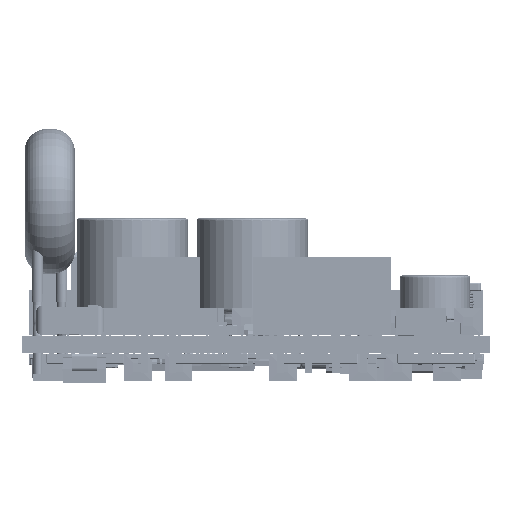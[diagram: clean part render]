
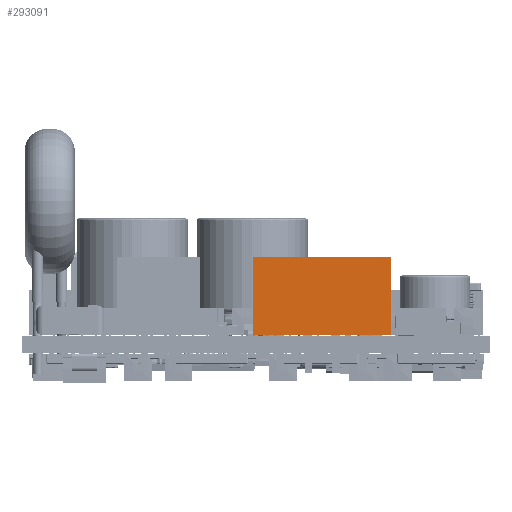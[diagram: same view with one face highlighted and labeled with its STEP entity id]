
A CAD part, left-side view. The second image highlights one B-rep face of the part: STEP entity #293091.
In plain terms, the highlighted planar face has unit normal (-1, 0, 0) as drawn and (0, 0, -1) by its records, which use the part's own axes.
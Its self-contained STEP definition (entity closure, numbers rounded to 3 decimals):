
#291357 = PLANE('',#291358);
#291358 = AXIS2_PLACEMENT_3D('',#291359,#291360,#291361);
#291359 = CARTESIAN_POINT('',(6.2,7.,2.875));
#291360 = DIRECTION('',(-1.,0.,0.));
#291361 = DIRECTION('',(0.,0.,1.));
#291494 = VERTEX_POINT('',#291495);
#291495 = CARTESIAN_POINT('',(6.2,7.,-2.875));
#291509 = PLANE('',#291510);
#291510 = AXIS2_PLACEMENT_3D('',#291511,#291512,#291513);
#291511 = CARTESIAN_POINT('',(6.2,7.,1.05));
#291512 = DIRECTION('',(0.,-1.,0.));
#291513 = DIRECTION('',(0.,0.,-1.));
#291521 = EDGE_CURVE('',#291494,#291522,#291524,.T.);
#291522 = VERTEX_POINT('',#291523);
#291523 = CARTESIAN_POINT('',(6.2,0.,-2.875));
#291524 = SURFACE_CURVE('',#291525,(#291529,#291536),.PCURVE_S1.);
#291525 = LINE('',#291526,#291527);
#291526 = CARTESIAN_POINT('',(6.2,7.,-2.875));
#291527 = VECTOR('',#291528,1.);
#291528 = DIRECTION('',(0.,-1.,0.));
#291529 = PCURVE('',#291357,#291530);
#291530 = DEFINITIONAL_REPRESENTATION('',(#291531),#291535);
#291531 = LINE('',#291532,#291533);
#291532 = CARTESIAN_POINT('',(-5.75,0.));
#291533 = VECTOR('',#291534,1.);
#291534 = DIRECTION('',(0.,-1.));
#291535 = ( GEOMETRIC_REPRESENTATION_CONTEXT(2) 
PARAMETRIC_REPRESENTATION_CONTEXT() REPRESENTATION_CONTEXT('2D SPACE',''
  ) );
#291536 = PCURVE('',#291537,#291542);
#291537 = PLANE('',#291538);
#291538 = AXIS2_PLACEMENT_3D('',#291539,#291540,#291541);
#291539 = CARTESIAN_POINT('',(6.2,0.,-2.875));
#291540 = DIRECTION('',(0.,0.,1.));
#291541 = DIRECTION('',(1.,0.,0.));
#291542 = DEFINITIONAL_REPRESENTATION('',(#291543),#291547);
#291543 = LINE('',#291544,#291545);
#291544 = CARTESIAN_POINT('',(0.,7.));
#291545 = VECTOR('',#291546,1.);
#291546 = DIRECTION('',(0.,-1.));
#291547 = ( GEOMETRIC_REPRESENTATION_CONTEXT(2) 
PARAMETRIC_REPRESENTATION_CONTEXT() REPRESENTATION_CONTEXT('2D SPACE',''
  ) );
#291563 = PLANE('',#291564);
#291564 = AXIS2_PLACEMENT_3D('',#291565,#291566,#291567);
#291565 = CARTESIAN_POINT('',(6.2,0.,2.875));
#291566 = DIRECTION('',(0.,1.,0.));
#291567 = DIRECTION('',(0.,0.,1.));
#291641 = PLANE('',#291642);
#291642 = AXIS2_PLACEMENT_3D('',#291643,#291644,#291645);
#291643 = CARTESIAN_POINT('',(-6.2,7.,2.875));
#291644 = DIRECTION('',(-1.,0.,0.));
#291645 = DIRECTION('',(0.,0.,1.));
#292490 = VERTEX_POINT('',#292491);
#292491 = CARTESIAN_POINT('',(-6.2,0.,-2.875));
#292512 = EDGE_CURVE('',#292513,#292490,#292515,.T.);
#292513 = VERTEX_POINT('',#292514);
#292514 = CARTESIAN_POINT('',(-6.2,7.,-2.875));
#292515 = SURFACE_CURVE('',#292516,(#292520,#292527),.PCURVE_S1.);
#292516 = LINE('',#292517,#292518);
#292517 = CARTESIAN_POINT('',(-6.2,7.,-2.875));
#292518 = VECTOR('',#292519,1.);
#292519 = DIRECTION('',(0.,-1.,0.));
#292520 = PCURVE('',#291641,#292521);
#292521 = DEFINITIONAL_REPRESENTATION('',(#292522),#292526);
#292522 = LINE('',#292523,#292524);
#292523 = CARTESIAN_POINT('',(-5.75,0.));
#292524 = VECTOR('',#292525,1.);
#292525 = DIRECTION('',(0.,-1.));
#292526 = ( GEOMETRIC_REPRESENTATION_CONTEXT(2) 
PARAMETRIC_REPRESENTATION_CONTEXT() REPRESENTATION_CONTEXT('2D SPACE',''
  ) );
#292527 = PCURVE('',#291537,#292528);
#292528 = DEFINITIONAL_REPRESENTATION('',(#292529),#292533);
#292529 = LINE('',#292530,#292531);
#292530 = CARTESIAN_POINT('',(-12.4,7.));
#292531 = VECTOR('',#292532,1.);
#292532 = DIRECTION('',(0.,-1.));
#292533 = ( GEOMETRIC_REPRESENTATION_CONTEXT(2) 
PARAMETRIC_REPRESENTATION_CONTEXT() REPRESENTATION_CONTEXT('2D SPACE',''
  ) );
#292615 = EDGE_CURVE('',#292490,#291522,#292616,.T.);
#292616 = SURFACE_CURVE('',#292617,(#292621,#292628),.PCURVE_S1.);
#292617 = LINE('',#292618,#292619);
#292618 = CARTESIAN_POINT('',(-6.2,0.,-2.875));
#292619 = VECTOR('',#292620,1.);
#292620 = DIRECTION('',(1.,0.,0.));
#292621 = PCURVE('',#291563,#292622);
#292622 = DEFINITIONAL_REPRESENTATION('',(#292623),#292627);
#292623 = LINE('',#292624,#292625);
#292624 = CARTESIAN_POINT('',(-5.75,-12.4));
#292625 = VECTOR('',#292626,1.);
#292626 = DIRECTION('',(0.,1.));
#292627 = ( GEOMETRIC_REPRESENTATION_CONTEXT(2) 
PARAMETRIC_REPRESENTATION_CONTEXT() REPRESENTATION_CONTEXT('2D SPACE',''
  ) );
#292628 = PCURVE('',#291537,#292629);
#292629 = DEFINITIONAL_REPRESENTATION('',(#292630),#292634);
#292630 = LINE('',#292631,#292632);
#292631 = CARTESIAN_POINT('',(-12.4,0.));
#292632 = VECTOR('',#292633,1.);
#292633 = DIRECTION('',(1.,0.));
#292634 = ( GEOMETRIC_REPRESENTATION_CONTEXT(2) 
PARAMETRIC_REPRESENTATION_CONTEXT() REPRESENTATION_CONTEXT('2D SPACE',''
  ) );
#293091 = ADVANCED_FACE('',(#293092),#291537,.F.);
#293092 = FACE_BOUND('',#293093,.F.);
#293093 = EDGE_LOOP('',(#293094,#293095,#293096,#293097));
#293094 = ORIENTED_EDGE('',*,*,#292512,.T.);
#293095 = ORIENTED_EDGE('',*,*,#292615,.T.);
#293096 = ORIENTED_EDGE('',*,*,#291521,.F.);
#293097 = ORIENTED_EDGE('',*,*,#293098,.F.);
#293098 = EDGE_CURVE('',#292513,#291494,#293099,.T.);
#293099 = SURFACE_CURVE('',#293100,(#293104,#293111),.PCURVE_S1.);
#293100 = LINE('',#293101,#293102);
#293101 = CARTESIAN_POINT('',(-6.2,7.,-2.875));
#293102 = VECTOR('',#293103,1.);
#293103 = DIRECTION('',(1.,0.,0.));
#293104 = PCURVE('',#291537,#293105);
#293105 = DEFINITIONAL_REPRESENTATION('',(#293106),#293110);
#293106 = LINE('',#293107,#293108);
#293107 = CARTESIAN_POINT('',(-12.4,7.));
#293108 = VECTOR('',#293109,1.);
#293109 = DIRECTION('',(1.,0.));
#293110 = ( GEOMETRIC_REPRESENTATION_CONTEXT(2) 
PARAMETRIC_REPRESENTATION_CONTEXT() REPRESENTATION_CONTEXT('2D SPACE',''
  ) );
#293111 = PCURVE('',#291509,#293112);
#293112 = DEFINITIONAL_REPRESENTATION('',(#293113),#293117);
#293113 = LINE('',#293114,#293115);
#293114 = CARTESIAN_POINT('',(3.925,-12.4));
#293115 = VECTOR('',#293116,1.);
#293116 = DIRECTION('',(0.,1.));
#293117 = ( GEOMETRIC_REPRESENTATION_CONTEXT(2) 
PARAMETRIC_REPRESENTATION_CONTEXT() REPRESENTATION_CONTEXT('2D SPACE',''
  ) );
